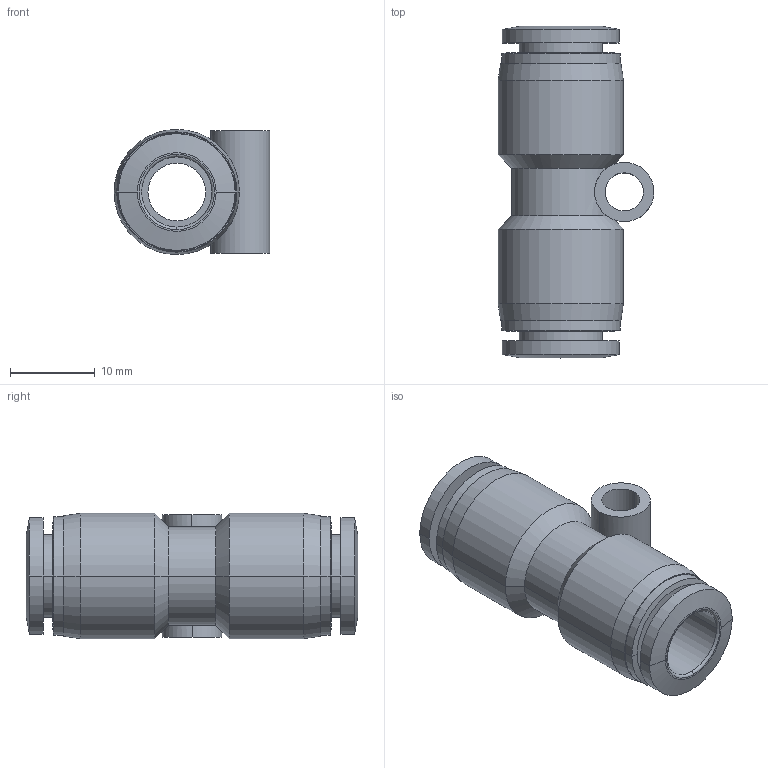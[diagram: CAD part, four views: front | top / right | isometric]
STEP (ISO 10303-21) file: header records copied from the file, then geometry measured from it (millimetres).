
FILE_DESCRIPTION (( 'STEP AP203' ), '1' );
FILE_NAME ('FH08-00.STEP', '2020-05-13T10:57:33', ( '' ), ( '' ), 'SwSTEP 2.0', 'SolidWorks 2019', '' );
FILE_SCHEMA (( 'CONFIG_CONTROL_DESIGN' ));
Length unit declared in the file: millimetre
Products named in the file (1): FH08-00
Bounding box: 18.4 x 39.2 x 14.8 mm (x, y, z)
Volume: 4048.2 mm3; surface area: 3715.7 mm2
Topology: 1 solids, 1 shells, 60 faces, 132 edges, 82 vertices
Faces by surface type: cylinder 28, cone 16, plane 12, torus 4
Entity records: 1885 total; most frequent: CARTESIAN_POINT 419, DIRECTION 326, ORIENTED_EDGE 264, AXIS2_PLACEMENT_3D 141, EDGE_CURVE 132, VERTEX_POINT 82, CIRCLE 80, EDGE_LOOP 72
